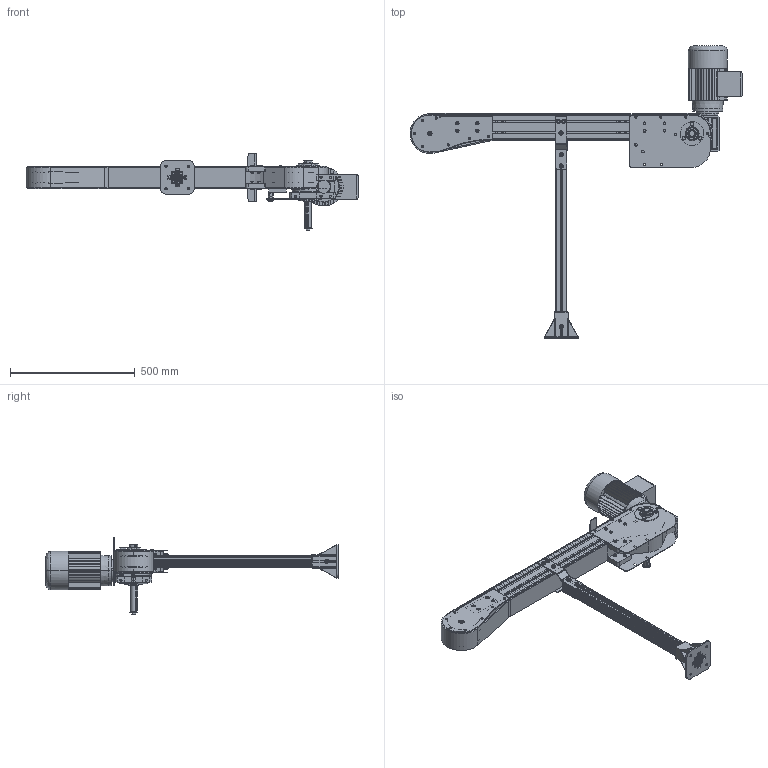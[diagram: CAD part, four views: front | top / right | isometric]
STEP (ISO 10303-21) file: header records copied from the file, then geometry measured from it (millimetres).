
FILE_DESCRIPTION (( 'STEP AP214' ), '1' );
FILE_NAME ('NASTRO_CATENA.step', '2026-05-08T11:11:59', ( 'Utente Windows' ), ( '' ), 'SwSTEP 2.0', 'SolidWorks 2024', '' );
FILE_SCHEMA (( 'AUTOMOTIVE_DESIGN' ));
Length unit declared in the file: millimetre
Products named in the file (57): 084.802.027; RONDELLE UNI 6592_8.4x17 UNI 6592; BASE_GAMBE_KB325; 2000.882.750; SBPF205; 2000.001.004-3; 2000.325.205-4; VITI TE UNI 5739 INOX_M8x20 UNI 5739 INOX; 2000.325.102; RONDELLE FASCIA LARGA UNI 6593 INOX_8.4x24 UNI 6593 INOX; VITI TE UNI 5739 INOX_M6x30 UNI 5739 INOX; 2000.325.105-2; 2000.001.212; 084.301.000 VITI ALUSIC_084.301.002; 2000.001.001; 084.409.002; 0630UNI8735; 084.302.000 DADI ALUSIC 13x13-1_084.302.009; 2000.001.011; FLANGIA_GAMBE_KP325; 2000.325.201-1S; 663151_NS880T12R25; 2000.001.213; 084.808.005-1; CATENA_DIRITTO; VITI TSEI UNI 5933 INOX_0410UNI5933A2; CHIAVETTE_A 8x7x50 UNI 6604-69; 2000.001.003-3; 2000.325.204-4; K325_1_Default<A macchina>; RONDELLE FASCIA LARGA UNI 6593 INOX_8.4x32 UNI 6593 INOX; 2000.325.003; NASTRO_CATENA; 2000.001.202-3; DADI ESAGONALI AUTOBLOCCANTI UNI 7473 INOX_M6 UNI 7473 INOX; 084.301.000 VITI ALUSIC1_084.301.003; 2000.001.201-3; K325_R_P; K325_DIR_63_P_SX_MOTORE A DESTRA; 2000.001.002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
Assembly tree (134 placements, depth 4):
  NASTRO_CATENA
    K325_1_Default<A macchina>
    K325_DIR_63_P_SX_MOTORE A DESTRA
      084.802.027
      2000.001.006-2  x2
      2000.325.003  x2
      2000.001.001  x2
      2000.325.001_Default<Lavorato>  x2
      2000.325.104-2
      2000.001.004-3
      084.808.005-1
      2000.325.102
      2000.001.011
      2000.001.003-3
      2000.325.105-2
      CHIAVETTE_A 8x7x50 UNI 6604-69  x3
      SBPF205  x2
      663151_NS880T12R25
      VITI TSEI UNI 5933 INOX_0410UNI5933A2  x8
      GRANI A PUNTA CONICA UNI 5927_M8x16 UNI 5927  x8
      VITI TCEI UNI 5931 INOX_M6x30 UNI 5931 INOX  x2
      VITI TE UNI 5739 INOX_M8x20 UNI 5739 INOX
      RONDELLE FASCIA LARGA UNI 6593 INOX_8.4x32 UNI 6593 INOX
      GRANI A PUNTA PIATTA UNI 5923_M8x20 UNI 5923
      RONDELLE FASCIA LARGA UNI 6593 INOX_8.4x24 UNI 6593 INOX
      VITI TE UNI 5739 INOX_M8x16 UNI 5739 INOX  x7
      DADI ESAGONALI AUTOBLOCCANTI UNI 7473 INOX_M6 UNI 7473 INOX  x4
      PU008.012.025N
      084.312.006  x6
      VITI TE UNI 5739 INOX_M6x30 UNI 5739 INOX  x4
      VITI TE UNI 5739 INOX_M6x20 UNI 5739 INOX  x6
    K325_R_P
      2000.001.201-3
      2000.001.202-3
      PROFILO POLIZENE_209<A macchina>  x2
      2000.325.201-1S
      2000.325.205-4
      2000.325.204-4
      2000.001.002  x2
      2000.001.001  x2
      2000.325.001_Default<Lavorato>  x2
      2000.001.213
        2000.001.212  x2
        0630UNI8735  x2
    GAMBE_KP325_Default<A macchina>  x2
    FLANGIA_GAMBE_KP325  x4
      2000.325.620
      084.302.016
      084.301.000 VITI ALUSIC_084.301.002
      084.302.000 DADI ALUSIC 13x13-1_084.302.004
      RONDELLE UNI 6592_8.4x17 UNI 6592
    BASE_GAMBE_KB325  x2
      084.409.002
      RONDELLE UNI 6592_8.4x17 UNI 6592
      084.301.000 VITI ALUSIC1_084.301.003
      084.302.000 DADI ALUSIC 13x13-1_084.302.009
    084.201.012-1  x2
    CH06P_SX
    CATENA_DIRITTO
    2000.882.750
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Bounding box: 1329.46 x 1169.52 x 305.73 mm (x, y, z)
Volume: 13997592.2 mm3; surface area: 4315025.1 mm2
Topology: 192 solids, 203 shells, 6149 faces, 15260 edges, 9639 vertices
Faces by surface type: plane 3021, cylinder 2035, cone 588, torus 360, bspline 145
Entity records: 102071 total; most frequent: CARTESIAN_POINT 21026, DIRECTION 17189, ORIENTED_EDGE 16094, EDGE_CURVE 8058, AXIS2_PLACEMENT_3D 6215, VERTEX_POINT 5057, VECTOR 4759, LINE 4759
